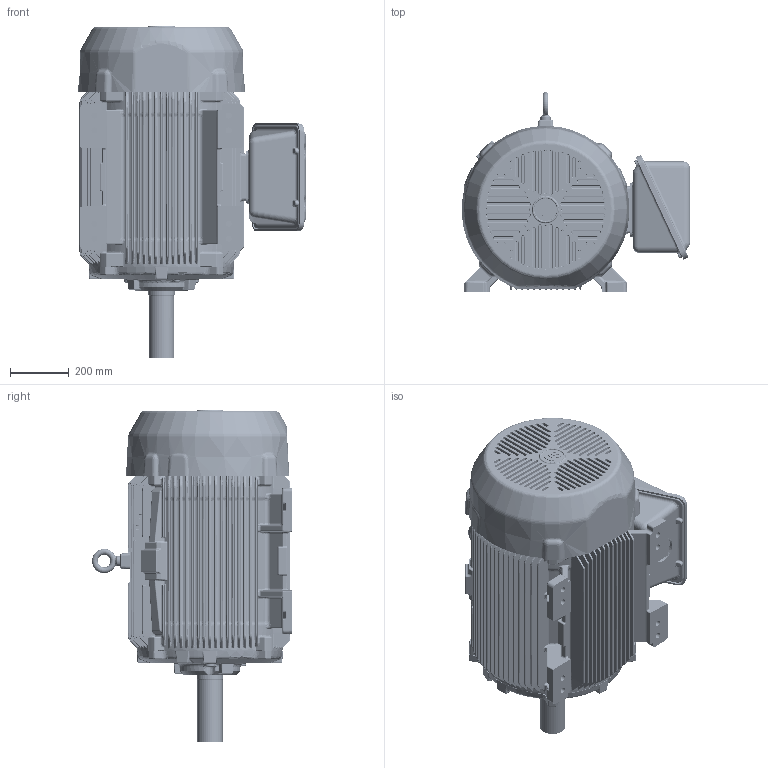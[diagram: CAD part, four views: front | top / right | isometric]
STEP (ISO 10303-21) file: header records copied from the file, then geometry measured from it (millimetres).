
FILE_DESCRIPTION((''),'2;1');
FILE_NAME('440_3D_ASM_ASM','2018-03-16T',('EMD2341'),('Nidec Motor Corporation'),'CREO PARAMETRIC BY PTC INC, 2017170','CREO PARAMETRIC BY PTC INC, 2017170','');
FILE_SCHEMA(('CONFIG_CONTROL_DESIGN'));
Length unit declared in the file: inch
Products named in the file (10): 440_FOOTED_FRAME; 440_DE_BRKT; 440_CAST_FCVR; 440_CAST_GSK_OBB; 0011046; 440_T; 440_OBB_NEMA; 440_CAST_GSK_OBC; 440_CAST_OBC; 440_3D_ASM_ASM
Assembly tree (9 placements, depth 2):
  440_3D_ASM_ASM
    440_FOOTED_FRAME
    440_DE_BRKT
    440_CAST_FCVR
    440_CAST_GSK_OBB
    0011046
    440_T
    440_OBB_NEMA
    440_CAST_GSK_OBC
    440_CAST_OBC
Bounding box: 778.3 x 681.1 x 1130.3 mm (x, y, z)
Volume: 213920237.7 mm3; surface area: 6236283.7 mm2
Topology: 9 solids, 9 shells, 6400 faces, 14697 edges, 8388 vertices
Faces by surface type: bspline 2747, cylinder 1295, plane 1162, torus 482, extrusion 460, cone 164, sphere 90
Entity records: 291987 total; most frequent: CARTESIAN_POINT 167376, ORIENTED_EDGE 29394, DIRECTION 20334, EDGE_CURVE 14697, VERTEX_POINT 8388, AXIS2_PLACEMENT_3D 7610, EDGE_LOOP 6501, FACE_OUTER_BOUND 6400
